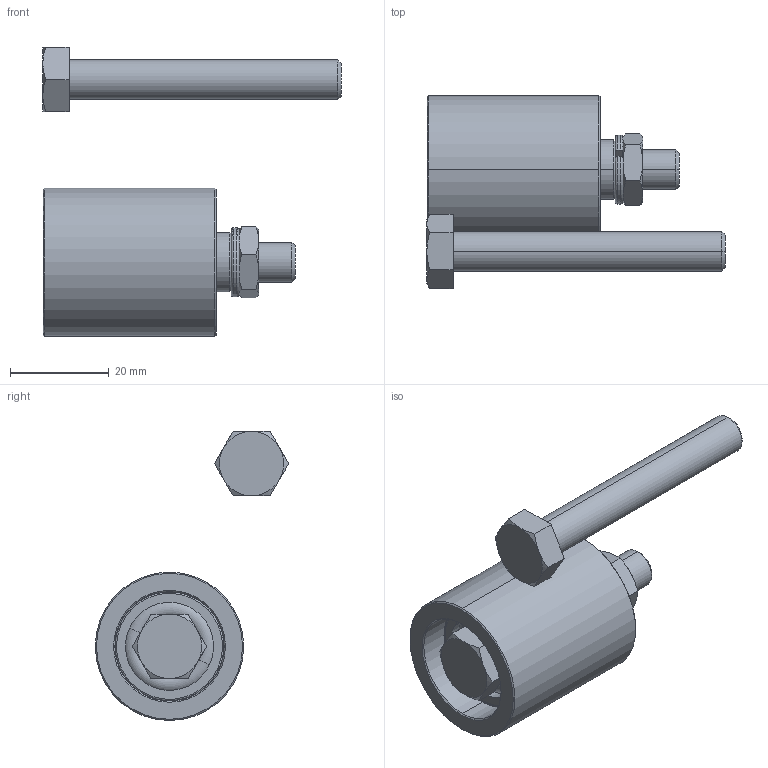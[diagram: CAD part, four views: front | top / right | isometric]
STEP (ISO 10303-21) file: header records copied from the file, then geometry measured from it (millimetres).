
FILE_DESCRIPTION (( 'STEP AP203' ), '1' );
FILE_NAME ('RU 3035 PA cod. 94040135.STEP', '2017-07-24T11:34:39', ( '' ), ( '' ), 'SwSTEP 2.0', 'SolidWorks 2016', '' );
FILE_SCHEMA (( 'CONFIG_CONTROL_DESIGN' ));
Length unit declared in the file: millimetre
Products named in the file (8): SKF - 608 - 8,SI,NC,8_68_SKF - 608 - 8,SI,NC,8_68; DIN 6905-7.4-FSt_DIN 6905-7.4-FSt; ISO 4014 - M8 x 45 x 45-C_ISO 4014 - M8 x 45 x 45-C; DIST-3035; ISO 4015 - M8 x 55 x 55-C_ISO 4015 - M8 x 55 x 55-C; RU 3035 PA cod. 94040135; PA-2973035VS; ISO - 4035 - M8 - C_ISO - 4035 - M8 - C
Assembly tree (9 placements, depth 2):
  RU 3035 PA cod. 94040135
    PA-2973035VS
    SKF - 608 - 8,SI,NC,8_68_SKF - 608 - 8,SI,NC,8_68  x2
    DIST-3035  x2
    ISO 4014 - M8 x 45 x 45-C_ISO 4014 - M8 x 45 x 45-C
    DIN 6905-7.4-FSt_DIN 6905-7.4-FSt
    ISO - 4035 - M8 - C_ISO - 4035 - M8 - C
    ISO 4015 - M8 x 55 x 55-C_ISO 4015 - M8 x 55 x 55-C
Bounding box: 60.3 x 39.09 x 58.42 mm (x, y, z)
Volume: 24566.2 mm3; surface area: 15470.2 mm2
Topology: 9 solids, 9 shells, 196 faces, 404 edges, 236 vertices
Faces by surface type: cone 56, cylinder 56, plane 54, torus 30
Entity records: 5184 total; most frequent: CARTESIAN_POINT 986, DIRECTION 754, ORIENTED_EDGE 640, AXIS2_PLACEMENT_3D 324, EDGE_CURVE 320, VERTEX_POINT 188, EDGE_LOOP 170, CIRCLE 158
